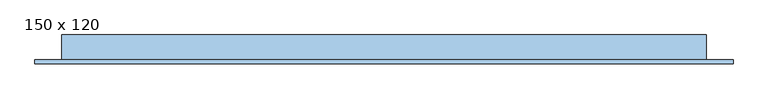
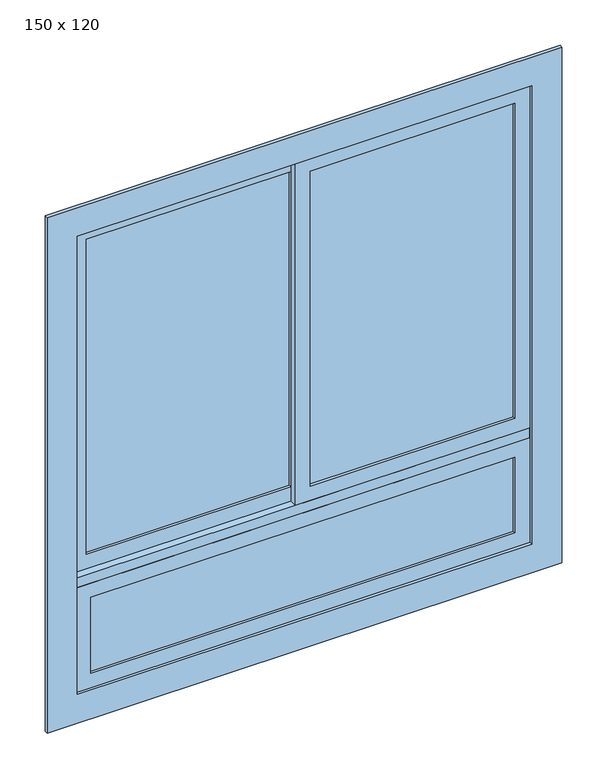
"""IFC4 building model written with IfcOpenShell, lengths in millimetres: window geometry, JANELA COM ESQUADRIA DE CORRER - 2 FOLHAS + PEITORIL FIXO - 1 FOLHA : 150 x 120."""

from ifc_helpers import new_model, si_unit, frame, origin, place, context, project, spatial, polyline, outline, extrude, source, transform, mapped, element, save


def window_150_x_120_ad32f1ee(model_context):
    return source(origin(), model_context, "Body", "SweptSolid", [
        extrude(outline(polyline([(829.4035509, -60.3758395), (829.4035509, -66.3758395), (-570.5964491, -66.3758395), (-570.5964491, -60.3758395), (829.4035509, -60.3758395)])), frame((0.0, 0.0, 650.0), z_axis=(0.0, 0.0, 1.0), x_axis=(1.0, 0.0, 0.0)), (0.0, 0.0, 1.0), 265.0),
        extrude(outline(polyline([(965.0, 879.4035509), (965.0, -620.5964491), (600.0, -620.5964491), (600.0, 879.4035509), (965.0, 879.4035509)]), holes=[polyline([(915.0, 829.4035509), (650.0, 829.4035509), (650.0, -570.5964491), (915.0, -570.5964491), (915.0, 829.4035509)])]), frame((0.0, -75.8758395, 0.0), z_axis=(0.0, 1.0, 0.0), x_axis=(0.0, 0.0, 1.0)), (0.0, 0.0, 1.0), 25.0),
        extrude(outline(polyline([(-570.5964491, -35.3758395), (104.4035509, -35.3758395), (104.4035509, -41.3758395), (-570.5964491, -41.3758395), (-570.5964491, -35.3758395)])), frame((0.0, 0.0, 1050.0), z_axis=(0.0, 0.0, 1.0), x_axis=(1.0, 0.0, 0.0)), (0.0, 0.0, 1.0), 1100.0),
        extrude(outline(polyline([(2200.0, -620.5964491), (1000.0, -620.5964491), (1000.0, 154.4035509), (2200.0, 154.4035509), (2200.0, -620.5964491)]), holes=[polyline([(2150.0, -570.5964491), (2150.0, 104.4035509), (1050.0, 104.4035509), (1050.0, -570.5964491), (2150.0, -570.5964491)])]), frame((0.0, -50.8758395, 0.0), z_axis=(0.0, 1.0, 0.0), x_axis=(0.0, 0.0, 1.0)), (0.0, 0.0, 1.0), 25.0),
        extrude(outline(polyline([(829.4035509, -60.3758395), (829.4035509, -66.3758395), (154.4035509, -66.3758395), (154.4035509, -60.3758395), (829.4035509, -60.3758395)])), frame((0.0, 0.0, 1050.0), z_axis=(0.0, 0.0, 1.0), x_axis=(1.0, 0.0, 0.0)), (0.0, 0.0, 1.0), 1100.0),
        extrude(outline(polyline([(2200.0, 879.4035509), (2200.0, 104.4035509), (1000.0, 104.4035509), (1000.0, 879.4035509), (2200.0, 879.4035509)]), holes=[polyline([(2150.0, 829.4035509), (1050.0, 829.4035509), (1050.0, 154.4035509), (2150.0, 154.4035509), (2150.0, 829.4035509)])]), frame((0.0, -75.8758395, 0.0), z_axis=(0.0, 1.0, 0.0), x_axis=(0.0, 0.0, 1.0)), (0.0, 0.0, 1.0), 25.0),
        extrude(outline(polyline([(500.0, -720.5964491), (500.0, 979.4035509), (2300.0, 979.4035509), (2300.0, -720.5964491), (500.0, -720.5964491)]), holes=[polyline([(2200.0, -620.5964491), (2200.0, 879.4035509), (600.0, 879.4035509), (600.0, -620.5964491), (2200.0, -620.5964491)])]), frame((0.0, -85.8758395, 0.0), z_axis=(0.0, 1.0, 0.0), x_axis=(0.0, 0.0, 1.0)), (0.0, 0.0, 1.0), 10.0),
        extrude(outline(polyline([(-655.5964491, -15.8758395), (-620.5964491, -15.8758395), (-620.5964491, -75.8758395), (-655.5964491, -75.8758395), (-655.5964491, -15.8758395)])), frame((0.0, 0.0, 600.0), z_axis=(0.0, 0.0, 1.0), x_axis=(1.0, 0.0, 0.0)), (0.0, 0.0, 1.0), 1600.0),
        extrude(outline(polyline([(879.4035509, -15.8758395), (914.4035509, -15.8758395), (914.4035509, -75.8758395), (879.4035509, -75.8758395), (879.4035509, -15.8758395)])), frame((0.0, 0.0, 600.0), z_axis=(0.0, 0.0, 1.0), x_axis=(1.0, 0.0, 0.0)), (0.0, 0.0, 1.0), 1600.0),
        extrude(outline(polyline([(-620.5964491, -15.8758395), (879.4035509, -15.8758395), (879.4035509, -75.8758395), (-620.5964491, -75.8758395), (-620.5964491, -15.8758395)])), frame((0.0, 0.0, 965.0), z_axis=(0.0, 0.0, 1.0), x_axis=(1.0, 0.0, 0.0)), (0.0, 0.0, 1.0), 35.0),
        extrude(outline(polyline([(-655.5964491, -15.8758395), (914.4035509, -15.8758395), (914.4035509, -75.8758395), (-655.5964491, -75.8758395), (-655.5964491, -15.8758395)])), frame((0.0, 0.0, 565.0), z_axis=(0.0, 0.0, 1.0), x_axis=(1.0, 0.0, 0.0)), (0.0, 0.0, 1.0), 35.0),
        extrude(outline(polyline([(-655.5964491, -15.8758395), (914.4035509, -15.8758395), (914.4035509, -75.8758395), (-655.5964491, -75.8758395), (-655.5964491, -15.8758395)])), frame((0.0, 0.0, 2200.0), z_axis=(0.0, 0.0, 1.0), x_axis=(1.0, 0.0, 0.0)), (0.0, 0.0, 1.0), 35.0),
    ])


if __name__ == "__main__":
    model = new_model("IFC4")
    model_context = context("Model", 3, world=origin())
    ifc_project = project(units=[si_unit("LENGTHUNIT", "METRE", prefix="MILLI")], contexts=[model_context])
    site = spatial("IfcSite", under=ifc_project)
    building = spatial("IfcBuilding", under=site)
    placement = place(None, origin())
    window_150_x_120_shape = window_150_x_120_ad32f1ee(model_context)
    element("IfcWindow", 1, ObjectType="JANELA COM ESQUADRIA DE CORRER - 2 FOLHAS + PEITORIL FIXO - 1 FOLHA : 150 x 120", at=placement, inside=building, context=model_context, shape_type="MappedRepresentation", body=[
        mapped(window_150_x_120_shape, transform((0.0, 0.0, 0.0), x_axis=(1.0, 0.0, 0.0), y_axis=(0.0, 1.0, 0.0), z_axis=(0.0, 0.0, 1.0))),
    ])
    save(model, "model.ifc")
